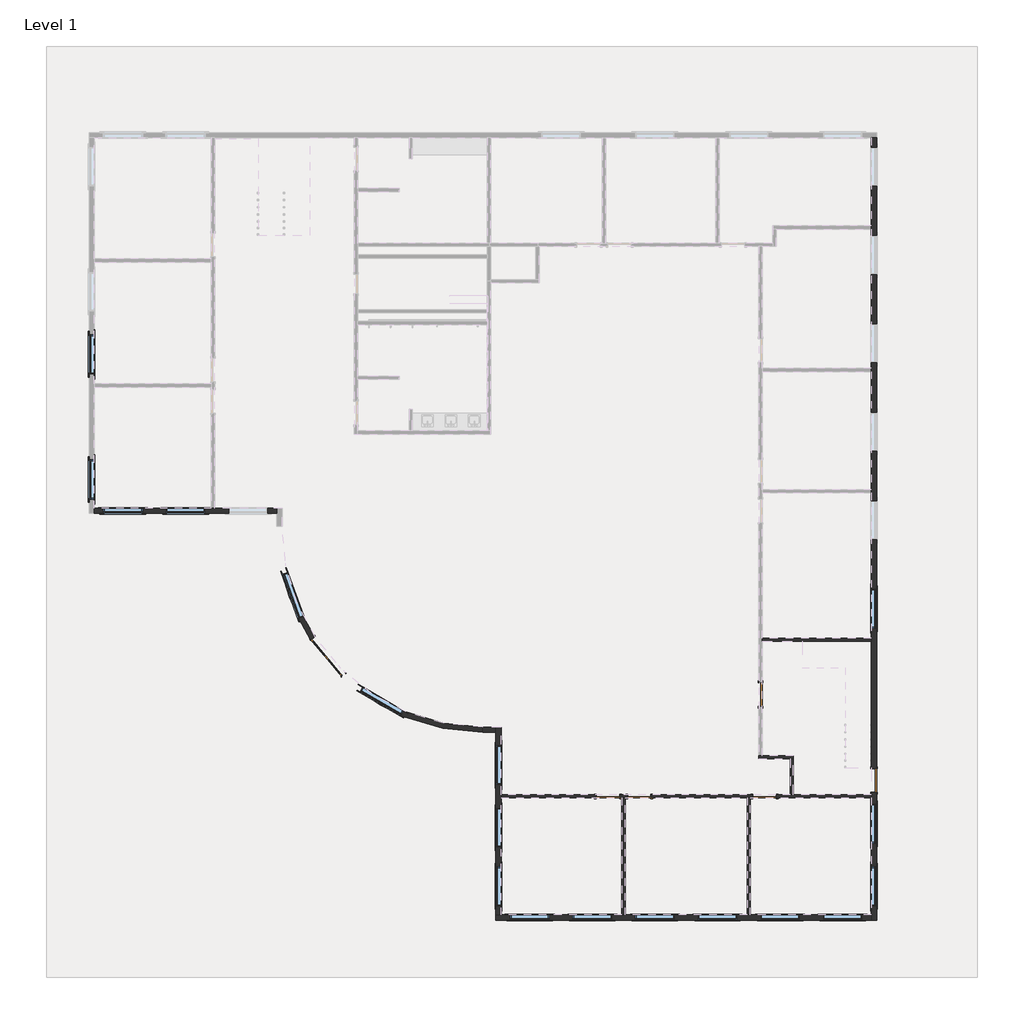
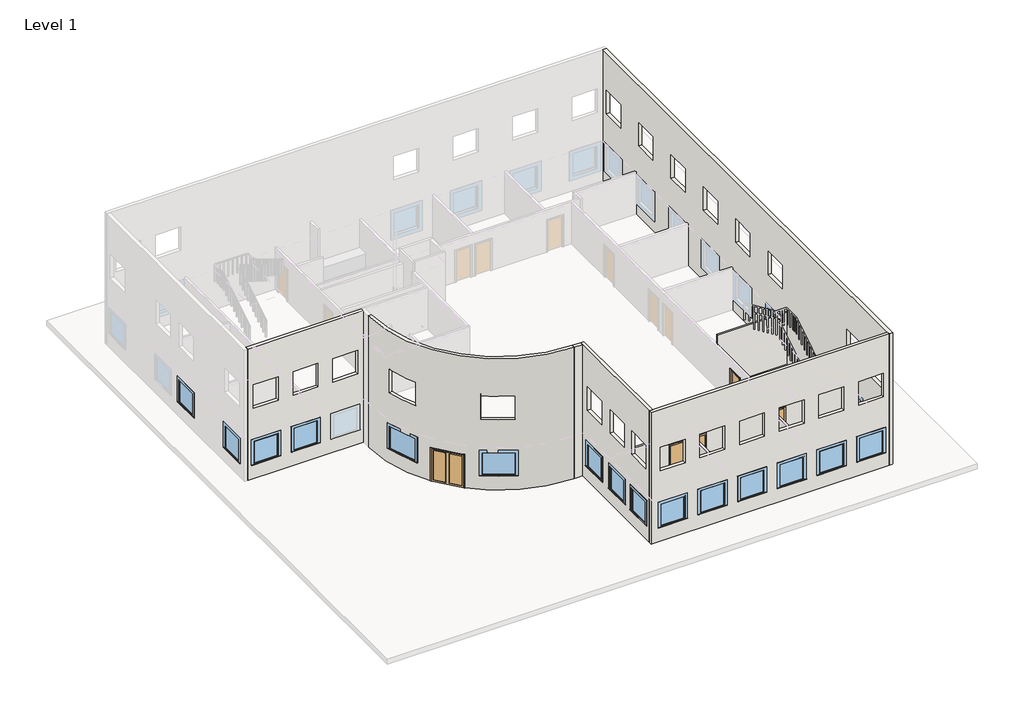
# One storey, part 1 of 4: 18 windows, 12 walls, 6 doors.
"""IFC4 building model written with IfcOpenShell, lengths in millimetres."""

from ifc_helpers import new_model, si_unit, frame, origin, origin_with_axes, place, context, project, spatial, polyline, circle_curve, outline, extrude, faceted_brep, transform, mapped, element, save
from ifc_brep_helpers import plane_surface, cylinder_surface, revolved_surface, advanced_brep
from components import door_e4a24bc2, door_a1797ceb, door_a3eb833a, door_54dd4da4, fixed_51c72f20, fixed_edddcce4, fixed_fbb7a90c

model = new_model("IFC4")

# Units and contexts
model_context = context("Model", 3, world=origin())
ifc_project = project(units=[si_unit("LENGTHUNIT", "METRE", prefix="MILLI")], contexts=[model_context])

# Site, building, storey
site = spatial("IfcSite", under=ifc_project)
building = spatial("IfcBuilding", under=site)
storey = spatial("IfcBuildingStorey", under=building, Name="Level 1", Elevation=0.0)

# Doors
placement = place(None, origin())
door_shape = door_e4a24bc2(model_context)
element("IfcDoor", 1, ObjectType="Dbl-Glass 1 : 72\" x 84\"", at=placement, inside=storey, context=model_context, shape_type="MappedRepresentation", body=[
    mapped(door_shape, transform((4204.1159776, -5206.0376483, 0.0), x_axis=(-0.6427876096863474, 0.7660444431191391, 0.0), y_axis=(-0.7660444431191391, -0.6427876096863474, 0.0), z_axis=(0.0, 0.0, 1.0))),
])
door_2_shape = door_a1797ceb(model_context)
element("IfcDoor", 2, ObjectType="Sgl Flush : 36\" x 84\"", at=placement, inside=storey, context=model_context, shape_type="MappedRepresentation", body=[
    mapped(door_2_shape, transform((21205.8157496, -10662.7900732, 0.0), x_axis=(-1.0, 0.0, 0.0), y_axis=(0.0, -1.0, 0.0), z_axis=(0.0, 0.0, 1.0))),
])
element("IfcDoor", 3, ObjectType="Sgl Flush : 36\" x 84\"", at=placement, inside=storey, context=model_context, shape_type="MappedRepresentation", body=[
    mapped(door_2_shape, transform((16329.0157496, -10662.7900732, 0.0), x_axis=(-1.0, 0.0, 0.0), y_axis=(0.0, -1.0, 0.0), z_axis=(0.0, 0.0, 1.0))),
])
element("IfcDoor", 4, ObjectType="Sgl Flush : 36\" x 84\"", at=placement, inside=storey, context=model_context, shape_type="MappedRepresentation", body=[
    mapped(door_2_shape, transform((21053.4157496, -6700.3900732, 0.0), x_axis=(0.0, -1.0, 0.0), y_axis=(1.0, 0.0, 0.0), z_axis=(0.0, 0.0, 1.0))),
])
door_3_shape = door_a3eb833a(model_context)
element("IfcDoor", 5, ObjectType="Sgl Flush : 36\" x 84\"", at=placement, inside=storey, context=model_context, shape_type="MappedRepresentation", body=[
    mapped(door_3_shape, transform((15109.8157496, -10662.7900732, 0.0), x_axis=(1.0, 0.0, 0.0), y_axis=(0.0, 1.0, 0.0), z_axis=(0.0, 0.0, 1.0))),
])
door_4_shape = door_54dd4da4(model_context)
element("IfcDoor", 6, ObjectType="Sgl Flush : 36\" x 84\"", at=placement, inside=storey, context=model_context, shape_type="MappedRepresentation", body=[
    mapped(door_4_shape, transform((25473.0157496, -10053.1900732, 0.0), x_axis=(0.0, -1.0, 0.0), y_axis=(1.0, 0.0, 0.0), z_axis=(0.0, 0.0, 1.0))),
])

# Walls
element("IfcWall", 7, ObjectType="Generic - 8\"", at=placement, inside=storey, context=model_context, shape_type="Brep", body=[
    faceted_brep([(25371.4157496, -10510.3900732, 2133.6), (25371.4157496, -10510.3900732, 0.0), (25371.4157496, -15285.5900732, 0.0), (25371.4157496, -15488.7900732, 0.0), (25371.4157496, -15488.7900732, 8534.4), (25371.4157496, -15285.5900732, 8534.4), (25371.4157496, 14991.2099268, 8534.4), (25371.4157496, 14991.2099268, 0.0), (25371.4157496, -9595.9900732, 0.0), (25371.4157496, -9595.9900732, 2133.6), (25371.4157496, -14929.9900732, 2438.4), (25371.4157496, -14929.9900732, 914.4), (25371.4157496, -13405.9900732, 914.4), (25371.4157496, -13405.9900732, 2438.4), (25371.4157496, -12491.5900732, 2438.4), (25371.4157496, -12491.5900732, 914.4), (25371.4157496, -10967.5900732, 914.4), (25371.4157496, -10967.5900732, 2438.4), (25371.4157496, -4109.5900732, 2438.4), (25371.4157496, -4109.5900732, 914.4), (25371.4157496, -2585.5900732, 914.4), (25371.4157496, -2585.5900732, 2438.4), (25371.4157496, -665.5088232, 2438.4), (25371.4157496, -665.5088232, 914.4), (25371.4157496, 858.4911768, 914.4), (25371.4157496, 858.4911768, 2438.4), (25371.4157496, 4302.5724268, 2438.4), (25371.4157496, 2778.5724268, 2438.4), (25371.4157496, 2778.5724268, 914.4), (25371.4157496, 4302.5724268, 914.4), (25371.4157496, 6223.4474268, 2438.4), (25371.4157496, 6223.4474268, 914.4), (25371.4157496, 7747.4474268, 914.4), (25371.4157496, 7747.4474268, 2438.4), (25371.4157496, 9667.5286768, 2438.4), (25371.4157496, 9667.5286768, 914.4), (25371.4157496, 11191.5286768, 914.4), (25371.4157496, 11191.5286768, 2438.4), (25371.4157496, 13111.6099268, 2438.4), (25371.4157496, 13111.6099268, 914.4), (25371.4157496, 14635.6099268, 914.4), (25371.4157496, 14635.6099268, 2438.4), (25371.4157496, 13111.6099268, 6096.0), (25371.4157496, 13111.6099268, 4572.0), (25371.4157496, 14635.6099268, 4572.0), (25371.4157496, 14635.6099268, 6096.0), (25371.4157496, 9667.5286768, 6096.0), (25371.4157496, 9667.5286768, 4572.0), (25371.4157496, 11191.5286768, 4572.0), (25371.4157496, 11191.5286768, 6096.0), (25371.4157496, 6223.4474268, 6096.0), (25371.4157496, 6223.4474268, 4572.0), (25371.4157496, 7747.4474268, 4572.0), (25371.4157496, 7747.4474268, 6096.0), (25371.4157496, 2778.5724268, 6096.0), (25371.4157496, 2778.5724268, 4572.0), (25371.4157496, 4302.5724268, 4572.0), (25371.4157496, 4302.5724268, 6096.0), (25371.4157496, -665.5088232, 6096.0), (25371.4157496, -665.5088232, 4572.0), (25371.4157496, 858.4911768, 4572.0), (25371.4157496, 858.4911768, 6096.0), (25371.4157496, -4109.5900732, 6096.0), (25371.4157496, -4109.5900732, 4572.0), (25371.4157496, -2585.5900732, 4572.0), (25371.4157496, -2585.5900732, 6096.0), (25371.4157496, -12491.5900732, 6096.0), (25371.4157496, -12491.5900732, 4572.0), (25371.4157496, -10967.5900732, 4572.0), (25371.4157496, -10967.5900732, 6096.0), (25371.4157496, -14929.9900732, 6096.0), (25371.4157496, -14929.9900732, 4572.0), (25371.4157496, -13405.9900732, 4572.0), (25371.4157496, -13405.9900732, 6096.0), (25574.6157496, -15488.7900732, 0.0), (25574.6157496, -10510.3900732, 0.0), (25574.6157496, -10510.3900732, 2133.6), (25574.6157496, -9595.9900732, 2133.6), (25574.6157496, -9595.9900732, 0.0), (25574.6157496, 14991.2099268, 0.0), (25574.6157496, 14991.2099268, 8534.4), (25574.6157496, -15488.7900732, 8534.4), (25574.6157496, -14929.9900732, 2438.4), (25574.6157496, -13405.9900732, 2438.4), (25574.6157496, -13405.9900732, 914.4), (25574.6157496, -14929.9900732, 914.4), (25574.6157496, -12491.5900732, 2438.4), (25574.6157496, -10967.5900732, 2438.4), (25574.6157496, -10967.5900732, 914.4), (25574.6157496, -12491.5900732, 914.4), (25574.6157496, -4109.5900732, 2438.4), (25574.6157496, -2585.5900732, 2438.4), (25574.6157496, -2585.5900732, 914.4), (25574.6157496, -4109.5900732, 914.4), (25574.6157496, -665.5088232, 2438.4), (25574.6157496, 858.4911768, 2438.4), (25574.6157496, 858.4911768, 914.4), (25574.6157496, -665.5088232, 914.4), (25574.6157496, 4302.5724268, 2438.4), (25574.6157496, 4302.5724268, 914.4), (25574.6157496, 2778.5724268, 914.4), (25574.6157496, 2778.5724268, 2438.4), (25574.6157496, 6223.4474268, 2438.4), (25574.6157496, 7747.4474268, 2438.4), (25574.6157496, 7747.4474268, 914.4), (25574.6157496, 6223.4474268, 914.4), (25574.6157496, 9667.5286768, 2438.4), (25574.6157496, 11191.5286768, 2438.4), (25574.6157496, 11191.5286768, 914.4), (25574.6157496, 9667.5286768, 914.4), (25574.6157496, 13111.6099268, 2438.4), (25574.6157496, 14635.6099268, 2438.4), (25574.6157496, 14635.6099268, 914.4), (25574.6157496, 13111.6099268, 914.4), (25574.6157496, 13111.6099268, 6096.0), (25574.6157496, 14635.6099268, 6096.0), (25574.6157496, 14635.6099268, 4572.0), (25574.6157496, 13111.6099268, 4572.0), (25574.6157496, 9667.5286768, 6096.0), (25574.6157496, 11191.5286768, 6096.0), (25574.6157496, 11191.5286768, 4572.0), (25574.6157496, 9667.5286768, 4572.0), (25574.6157496, 6223.4474268, 6096.0), (25574.6157496, 7747.4474268, 6096.0), (25574.6157496, 7747.4474268, 4572.0), (25574.6157496, 6223.4474268, 4572.0), (25574.6157496, 2778.5724268, 6096.0), (25574.6157496, 4302.5724268, 6096.0), (25574.6157496, 4302.5724268, 4572.0), (25574.6157496, 2778.5724268, 4572.0), (25574.6157496, -665.5088232, 6096.0), (25574.6157496, 858.4911768, 6096.0), (25574.6157496, 858.4911768, 4572.0), (25574.6157496, -665.5088232, 4572.0), (25574.6157496, -4109.5900732, 6096.0), (25574.6157496, -2585.5900732, 6096.0), (25574.6157496, -2585.5900732, 4572.0), (25574.6157496, -4109.5900732, 4572.0), (25574.6157496, -12491.5900732, 6096.0), (25574.6157496, -10967.5900732, 6096.0), (25574.6157496, -10967.5900732, 4572.0), (25574.6157496, -12491.5900732, 4572.0), (25574.6157496, -14929.9900732, 6096.0), (25574.6157496, -13405.9900732, 6096.0), (25574.6157496, -13405.9900732, 4572.0), (25574.6157496, -14929.9900732, 4572.0)], [[[0, 1, 2, 3, 4, 5, 6, 7, 8, 9], [10, 11, 12, 13], [14, 15, 16, 17], [18, 19, 20, 21], [22, 23, 24, 25], [26, 27, 28, 29], [30, 31, 32, 33], [34, 35, 36, 37], [38, 39, 40, 41], [42, 43, 44, 45], [46, 47, 48, 49], [50, 51, 52, 53], [54, 55, 56, 57], [58, 59, 60, 61], [62, 63, 64, 65], [66, 67, 68, 69], [70, 71, 72, 73]], [[74, 75, 76, 77, 78, 79, 80, 81], [82, 83, 84, 85], [86, 87, 88, 89], [90, 91, 92, 93], [94, 95, 96, 97], [98, 99, 100, 101], [102, 103, 104, 105], [106, 107, 108, 109], [110, 111, 112, 113], [114, 115, 116, 117], [118, 119, 120, 121], [122, 123, 124, 125], [126, 127, 128, 129], [130, 131, 132, 133], [134, 135, 136, 137], [138, 139, 140, 141], [142, 143, 144, 145]], [[3, 2, 1, 75, 74]], [[8, 7, 79, 78]], [[6, 5, 4, 81, 80]], [[4, 3, 74, 81]], [[7, 6, 80, 79]], [[11, 10, 82, 85]], [[12, 11, 85, 84]], [[13, 12, 84, 83]], [[10, 13, 83, 82]], [[15, 14, 86, 89]], [[16, 15, 89, 88]], [[17, 16, 88, 87]], [[14, 17, 87, 86]], [[19, 18, 90, 93]], [[20, 19, 93, 92]], [[21, 20, 92, 91]], [[18, 21, 91, 90]], [[23, 22, 94, 97]], [[24, 23, 97, 96]], [[25, 24, 96, 95]], [[22, 25, 95, 94]], [[99, 98, 26, 29]], [[100, 99, 29, 28]], [[101, 100, 28, 27]], [[98, 101, 27, 26]], [[31, 30, 102, 105]], [[32, 31, 105, 104]], [[33, 32, 104, 103]], [[30, 33, 103, 102]], [[35, 34, 106, 109]], [[36, 35, 109, 108]], [[37, 36, 108, 107]], [[34, 37, 107, 106]], [[39, 38, 110, 113]], [[40, 39, 113, 112]], [[41, 40, 112, 111]], [[38, 41, 111, 110]], [[76, 75, 1, 0]], [[77, 76, 0, 9]], [[78, 77, 9, 8]], [[43, 42, 114, 117]], [[44, 43, 117, 116]], [[45, 44, 116, 115]], [[42, 45, 115, 114]], [[47, 46, 118, 121]], [[48, 47, 121, 120]], [[49, 48, 120, 119]], [[46, 49, 119, 118]], [[51, 50, 122, 125]], [[52, 51, 125, 124]], [[53, 52, 124, 123]], [[50, 53, 123, 122]], [[55, 54, 126, 129]], [[56, 55, 129, 128]], [[57, 56, 128, 127]], [[54, 57, 127, 126]], [[59, 58, 130, 133]], [[60, 59, 133, 132]], [[61, 60, 132, 131]], [[58, 61, 131, 130]], [[63, 62, 134, 137]], [[64, 63, 137, 136]], [[65, 64, 136, 135]], [[62, 65, 135, 134]], [[67, 66, 138, 141]], [[68, 67, 141, 140]], [[69, 68, 140, 139]], [[66, 69, 139, 138]], [[71, 70, 142, 145]], [[72, 71, 145, 144]], [[73, 72, 144, 143]], [[70, 73, 143, 142]]]),
])
element("IfcWall", 8, ObjectType="Generic - 8\"", at=placement, inside=storey, context=model_context, shape_type="SweptSolid", body=[
    extrude(outline(polyline([(0.0, 25371.4157496), (8534.4, 25371.4157496), (8534.4, 10741.0157496), (0.0, 10741.0157496), (0.0, 25371.4157496)]), holes=[polyline([(2438.4, 12823.8157496), (914.4, 12823.8157496), (914.4, 11299.8157496), (2438.4, 11299.8157496), (2438.4, 12823.8157496)]), polyline([(2438.4, 15262.2157496), (914.4, 15262.2157496), (914.4, 13738.2157496), (2438.4, 13738.2157496), (2438.4, 15262.2157496)]), polyline([(2438.4, 16176.6157496), (2438.4, 17700.6157496), (914.4, 17700.6157496), (914.4, 16176.6157496), (2438.4, 16176.6157496)]), polyline([(2438.4, 18615.0157496), (2438.4, 20139.0157496), (914.4, 20139.0157496), (914.4, 18615.0157496), (2438.4, 18615.0157496)]), polyline([(2438.4, 21053.4157496), (2438.4, 22577.4157496), (914.4, 22577.4157496), (914.4, 21053.4157496), (2438.4, 21053.4157496)]), polyline([(2438.4, 23491.8157496), (2438.4, 25015.8157496), (914.4, 25015.8157496), (914.4, 23491.8157496), (2438.4, 23491.8157496)]), polyline([(6096.0, 11299.8157496), (6096.0, 12823.8157496), (4572.0, 12823.8157496), (4572.0, 11299.8157496), (6096.0, 11299.8157496)]), polyline([(6096.0, 13738.2157496), (6096.0, 15262.2157496), (4572.0, 15262.2157496), (4572.0, 13738.2157496), (6096.0, 13738.2157496)]), polyline([(6096.0, 16176.6157496), (6096.0, 17700.6157496), (4572.0, 17700.6157496), (4572.0, 16176.6157496), (6096.0, 16176.6157496)]), polyline([(6096.0, 18615.0157496), (6096.0, 20139.0157496), (4572.0, 20139.0157496), (4572.0, 18615.0157496), (6096.0, 18615.0157496)]), polyline([(6096.0, 21053.4157496), (6096.0, 22577.4157496), (4572.0, 22577.4157496), (4572.0, 21053.4157496), (6096.0, 21053.4157496)]), polyline([(6096.0, 23491.8157496), (6096.0, 25015.8157496), (4572.0, 25015.8157496), (4572.0, 23491.8157496), (6096.0, 23491.8157496)])]), frame((0.0, -15488.7900732, 0.0), z_axis=(0.0, 1.0, 0.0), x_axis=(0.0, 0.0, 1.0)), (0.0, 0.0, 1.0), 203.2),
])
element("IfcWall", 9, ObjectType="Generic - 8\"", at=placement, inside=storey, context=model_context, shape_type="Brep", body=[
    faceted_brep([(10944.2157496, -15285.5900732, 0.0), (10944.2157496, -10726.2900732, 0.0), (10944.2157496, -10599.2900732, 0.0), (10944.2157496, -7970.3900732, 0.0), (10944.2157496, -7970.3900732, 8534.4), (10944.2157496, -15285.5900732, 8534.4), (10944.2157496, -11119.9900732, 6096.0), (10944.2157496, -11119.9900732, 4572.0), (10944.2157496, -12643.9900732, 4572.0), (10944.2157496, -12643.9900732, 6096.0), (10944.2157496, -10205.5900732, 6096.0), (10944.2157496, -8681.5900732, 6096.0), (10944.2157496, -8681.5900732, 4572.0), (10944.2157496, -10205.5900732, 4572.0), (10944.2157496, -13405.9900732, 6096.0), (10944.2157496, -13405.9900732, 4572.0), (10944.2157496, -14929.9900732, 4572.0), (10944.2157496, -14929.9900732, 6096.0), (10944.2157496, -8681.5900732, 2438.4), (10944.2157496, -8681.5900732, 914.4), (10944.2157496, -10205.5900732, 914.4), (10944.2157496, -10205.5900732, 2438.4), (10944.2157496, -11119.9900732, 2438.4), (10944.2157496, -11119.9900732, 914.4), (10944.2157496, -12643.9900732, 914.4), (10944.2157496, -12643.9900732, 2438.4), (10944.2157496, -13405.9900732, 2438.4), (10944.2157496, -13405.9900732, 914.4), (10944.2157496, -14929.9900732, 914.4), (10944.2157496, -14929.9900732, 2438.4), (10741.0157496, -15285.5900732, 0.0), (10741.0157496, -15285.5900732, 8534.4), (10741.0157496, -7970.3900732, 8534.4), (10741.0157496, -7970.3900732, 0.0), (10741.0157496, -11119.9900732, 6096.0), (10741.0157496, -12643.9900732, 6096.0), (10741.0157496, -12643.9900732, 4572.0), (10741.0157496, -11119.9900732, 4572.0), (10741.0157496, -10205.5900732, 6096.0), (10741.0157496, -10205.5900732, 4572.0), (10741.0157496, -8681.5900732, 4572.0), (10741.0157496, -8681.5900732, 6096.0), (10741.0157496, -13405.9900732, 6096.0), (10741.0157496, -14929.9900732, 6096.0), (10741.0157496, -14929.9900732, 4572.0), (10741.0157496, -13405.9900732, 4572.0), (10741.0157496, -8681.5900732, 2438.4), (10741.0157496, -10205.5900732, 2438.4), (10741.0157496, -10205.5900732, 914.4), (10741.0157496, -8681.5900732, 914.4), (10741.0157496, -11119.9900732, 2438.4), (10741.0157496, -12643.9900732, 2438.4), (10741.0157496, -12643.9900732, 914.4), (10741.0157496, -11119.9900732, 914.4), (10741.0157496, -13405.9900732, 2438.4), (10741.0157496, -14929.9900732, 2438.4), (10741.0157496, -14929.9900732, 914.4), (10741.0157496, -13405.9900732, 914.4)], [[[0, 1, 2, 3, 4, 5], [6, 7, 8, 9], [10, 11, 12, 13], [14, 15, 16, 17], [18, 19, 20, 21], [22, 23, 24, 25], [26, 27, 28, 29]], [[30, 31, 32, 33], [34, 35, 36, 37], [38, 39, 40, 41], [42, 43, 44, 45], [46, 47, 48, 49], [50, 51, 52, 53], [54, 55, 56, 57]], [[3, 2, 1, 0, 30, 33]], [[5, 4, 32, 31]], [[4, 3, 33, 32]], [[0, 5, 31, 30]], [[7, 6, 34, 37]], [[8, 7, 37, 36]], [[9, 8, 36, 35]], [[6, 9, 35, 34]], [[39, 38, 10, 13]], [[40, 39, 13, 12]], [[41, 40, 12, 11]], [[38, 41, 11, 10]], [[15, 14, 42, 45]], [[16, 15, 45, 44]], [[17, 16, 44, 43]], [[14, 17, 43, 42]], [[19, 18, 46, 49]], [[20, 19, 49, 48]], [[21, 20, 48, 47]], [[18, 21, 47, 46]], [[23, 22, 50, 53]], [[24, 23, 53, 52]], [[25, 24, 52, 51]], [[22, 25, 51, 50]], [[27, 26, 54, 57]], [[28, 27, 57, 56]], [[29, 28, 56, 55]], [[26, 29, 55, 54]]]),
])
element("IfcWall", 10, ObjectType="Generic - 8\"", at=placement, inside=storey, context=model_context, shape_type="SweptSolid", body=[
    extrude(outline(polyline([(10741.0157496, -8173.5900732), (10233.0157496, -8173.5900732), (10233.0157496, -7970.3900732), (10741.0157496, -7970.3900732), (10741.0157496, -8173.5900732)])), origin_with_axes(), (0.0, 0.0, 1.0), 8534.4),
])
element("IfcWall", 11, ObjectType="Generic - 8\"", at=placement, inside=storey, context=model_context, shape_type="SweptSolid", body=[
    extrude(outline(polyline([(0.0, 2206.6157496), (8534.4, 2206.6157496), (8534.4, -4905.3842504), (0.0, -4905.3842504), (0.0, 2206.6157496)]), holes=[polyline([(2438.4, -3025.7842504), (914.4, -3025.7842504), (914.4, -4549.7842504), (2438.4, -4549.7842504), (2438.4, -3025.7842504)]), polyline([(2438.4, -2111.3842504), (2438.4, -587.3842504), (914.4, -587.3842504), (914.4, -2111.3842504), (2438.4, -2111.3842504)]), polyline([(2438.4, 1851.0157496), (914.4, 1851.0157496), (914.4, 327.0157496), (2438.4, 327.0157496), (2438.4, 1851.0157496)]), polyline([(6096.0, -4549.7842504), (6096.0, -3025.7842504), (4572.0, -3025.7842504), (4572.0, -4549.7842504), (6096.0, -4549.7842504)]), polyline([(6096.0, -2111.3842504), (6096.0, -587.3842504), (4572.0, -587.3842504), (4572.0, -2111.3842504), (6096.0, -2111.3842504)]), polyline([(6096.0, 327.0157496), (6096.0, 1851.0157496), (4572.0, 1851.0157496), (4572.0, 327.0157496), (6096.0, 327.0157496)])]), frame((0.0, 360.8099268, 0.0), z_axis=(0.0, 1.0, 0.0), x_axis=(0.0, 0.0, 1.0)), (0.0, 0.0, 1.0), 203.2),
])
element("IfcWall", 12, ObjectType="Generic - 8\"", at=placement, inside=storey, context=model_context, shape_type="AdvancedBrep", body=[
    advanced_brep(
    [(10233.0157496, -7970.3900732, 8534.4), (2409.8157496, -147.1900732, 8534.4), (2206.6157496, -147.1900732, 8534.4), (10233.0157496, -8173.5900732, 8534.4), (2409.8157496, -147.1900732, 0.0), (3693.40927, -4440.907033, 0.0), (3536.7022004, -4572.3998773, 0.0), (2206.6157496, -147.1900732, 0.0), (4868.9392505, -5841.8491106, 0.0), (10233.0157496, -7970.3900732, 0.0), (10233.0157496, -8173.5900732, 0.0), (4712.232181, -5973.3419549, 0.0), (3693.40927, -4440.907033, 2133.6), (4868.9392505, -5841.8491106, 2133.6), (5556.3334878, -6418.6413616, 2438.4), (5556.3334878, -6418.6413616, 914.4), (7140.1207463, -7333.0413616, 914.4), (7140.1207463, -7333.0413616, 2438.4), (2619.2581078, -1945.2870706, 2438.4), (2619.2581078, -1945.2870706, 914.4), (3244.744546, -3663.7969355, 914.4), (3244.744546, -3663.7969355, 2438.4), (5527.7340205, -6397.2126403, 6096.0), (5527.7340205, -6397.2126403, 4572.0), (7107.3277355, -7318.8379088, 4572.0), (7107.3277355, -7318.8379088, 6096.0), (2621.6730692, -1955.4823176, 6096.0), (2621.6730692, -1955.4823176, 4572.0), (3249.4604911, -3673.1529475, 4572.0), (3249.4604911, -3673.1529475, 6096.0), (3536.7022004, -4572.3998773, 2133.6), (4712.232181, -5973.3419549, 2133.6), (5454.0502124, -6595.8011914, 2438.4), (7037.8374708, -7510.2011914, 2438.4), (7037.8374708, -7510.2011914, 914.4), (5454.0502124, -6595.8011914, 914.4), (2427.0284295, -2015.2529517, 2438.4), (3052.5148676, -3733.7628166, 2438.4), (3052.5148676, -3733.7628166, 914.4), (2427.0284295, -2015.2529517, 914.4), (5424.6425384, -6573.9033873, 6096.0), (7004.2362534, -7495.5286558, 6096.0), (7004.2362534, -7495.5286558, 4572.0), (5424.6425384, -6573.9033873, 4572.0), (2429.5372663, -2025.7055829, 6096.0), (3057.3246882, -3743.3762128, 6096.0), (3057.3246882, -3743.3762128, 4572.0), (2429.5372663, -2025.7055829, 4572.0)],
    [
        (0, 1, circle_curve(frame((10233.0157496, -147.1900732, 8534.4), z_axis=(0.0, 0.0, -1.0), x_axis=(1.0, 0.0, 0.0)), 7823.2)),
        (1, 2),
        (2, 3, circle_curve(frame((10233.0157496, -147.1900732, 8534.4), z_axis=(0.0, 0.0, 1.0), x_axis=(1.0, 0.0, 0.0)), 8026.4)),
        (3, 0),
        (4, 5, circle_curve(frame((10233.0157496, -147.1900732, 0.0), z_axis=(0.0, 0.0, 1.0), x_axis=(1.0, 0.0, 0.0)), 7823.2)),
        (5, 6),
        (6, 7, circle_curve(frame((10233.0157496, -147.1900732, 0.0), z_axis=(0.0, 0.0, -1.0), x_axis=(1.0, 0.0, 0.0)), 8026.4)),
        (7, 4),
        (8, 9, circle_curve(frame((10233.0157496, -147.1900732, 0.0), z_axis=(0.0, 0.0, 1.0), x_axis=(1.0, 0.0, 0.0)), 7823.2)),
        (9, 10),
        (10, 11, circle_curve(frame((10233.0157496, -147.1900732, 0.0), z_axis=(0.0, 0.0, -1.0), x_axis=(1.0, 0.0, 0.0)), 8026.4)),
        (11, 8),
        (12, 5),
        (4, 1),
        (0, 9),
        (8, 13),
        (13, 12, circle_curve(frame((10233.0157496, -147.1900732, 2133.6), z_axis=(0.0, 0.0, -1.0), x_axis=(1.0, 0.0, 0.0)), 7823.2)),
        (14, 15),
        (15, 16, circle_curve(frame((10233.0157496, -147.1900732, 914.4), z_axis=(0.0, 0.0, 1.0), x_axis=(1.0, 0.0, 0.0)), 7823.2)),
        (16, 17),
        (17, 14, circle_curve(frame((10233.0157496, -147.1900732, 2438.4), z_axis=(0.0, 0.0, -1.0), x_axis=(1.0, 0.0, 0.0)), 7823.2)),
        (18, 19),
        (19, 20, circle_curve(frame((10233.0157496, -147.1900732, 914.4), z_axis=(0.0, 0.0, 1.0), x_axis=(1.0, 0.0, 0.0)), 7823.2)),
        (20, 21),
        (21, 18, circle_curve(frame((10233.0157496, -147.1900732, 2438.4), z_axis=(0.0, 0.0, -1.0), x_axis=(1.0, 0.0, 0.0)), 7823.2)),
        (22, 23),
        (23, 24, circle_curve(frame((10233.0157496, -147.1900732, 4572.0), z_axis=(0.0, 0.0, 1.0), x_axis=(1.0, 0.0, 0.0)), 7823.2)),
        (24, 25),
        (25, 22, circle_curve(frame((10233.0157496, -147.1900732, 6096.0), z_axis=(0.0, 0.0, -1.0), x_axis=(1.0, 0.0, 0.0)), 7823.2)),
        (26, 27),
        (27, 28, circle_curve(frame((10233.0157496, -147.1900732, 4572.0), z_axis=(0.0, 0.0, 1.0), x_axis=(1.0, 0.0, 0.0)), 7823.2)),
        (28, 29),
        (29, 26, circle_curve(frame((10233.0157496, -147.1900732, 6096.0), z_axis=(0.0, 0.0, -1.0), x_axis=(1.0, 0.0, 0.0)), 7823.2)),
        (7, 2),
        (6, 30),
        (30, 31, circle_curve(frame((10233.0157496, -147.1900732, 2133.6), z_axis=(0.0, 0.0, 1.0), x_axis=(1.0, 0.0, 0.0)), 8026.4)),
        (31, 11),
        (10, 3),
        (32, 33, circle_curve(frame((10233.0157496, -147.1900732, 2438.4), z_axis=(0.0, 0.0, 1.0), x_axis=(1.0, 0.0, 0.0)), 8026.4)),
        (33, 34),
        (34, 35, circle_curve(frame((10233.0157496, -147.1900732, 914.4), z_axis=(0.0, 0.0, -1.0), x_axis=(1.0, 0.0, 0.0)), 8026.4)),
        (35, 32),
        (36, 37, circle_curve(frame((10233.0157496, -147.1900732, 2438.4), z_axis=(0.0, 0.0, 1.0), x_axis=(1.0, 0.0, 0.0)), 8026.4)),
        (37, 38),
        (38, 39, circle_curve(frame((10233.0157496, -147.1900732, 914.4), z_axis=(0.0, 0.0, -1.0), x_axis=(1.0, 0.0, 0.0)), 8026.4)),
        (39, 36),
        (40, 41, circle_curve(frame((10233.0157496, -147.1900732, 6096.0), z_axis=(0.0, 0.0, 1.0), x_axis=(1.0, 0.0, 0.0)), 8026.4)),
        (41, 42),
        (42, 43, circle_curve(frame((10233.0157496, -147.1900732, 4572.0), z_axis=(0.0, 0.0, -1.0), x_axis=(1.0, 0.0, 0.0)), 8026.4)),
        (43, 40),
        (44, 45, circle_curve(frame((10233.0157496, -147.1900732, 6096.0), z_axis=(0.0, 0.0, 1.0), x_axis=(1.0, 0.0, 0.0)), 8026.4)),
        (45, 46),
        (46, 47, circle_curve(frame((10233.0157496, -147.1900732, 4572.0), z_axis=(0.0, 0.0, -1.0), x_axis=(1.0, 0.0, 0.0)), 8026.4)),
        (47, 44),
        (12, 30),
        (13, 31),
        (14, 32),
        (35, 15),
        (34, 16),
        (33, 17),
        (18, 36),
        (39, 19),
        (38, 20),
        (37, 21),
        (22, 40),
        (43, 23),
        (42, 24),
        (41, 25),
        (26, 44),
        (47, 27),
        (46, 28),
        (45, 29),
    ],
    [
        plane_surface(frame((18056.2157496, -147.1900732, 8534.4), z_axis=(0.0, 0.0, 1.0), x_axis=(0.0, -1.0, 0.0))),
        plane_surface(frame((18056.2157496, -147.1900732, 0.0), z_axis=(0.0, 0.0, -1.0), x_axis=(0.0, 1.0, 0.0))),
        revolved_surface(polyline([(18056.2157496, -147.1900732, 0.0), (18056.2157496, -147.1900732, 8534.4)]), (10233.0157496, -147.1900732, 0.0), (0.0, 0.0, -1.0)),
        plane_surface(frame((2409.8157496, -147.1900732, 8534.4), z_axis=(0.0, 1.0, 0.0), x_axis=(0.0, 0.0, -1.0))),
        cylinder_surface(frame((10233.0157496, -147.1900732, 0.0), z_axis=(0.0, 0.0, 1.0), x_axis=(1.0, 0.0, 0.0)), 8026.4),
        plane_surface(frame((10233.0157496, -8173.5900732, 8534.4), z_axis=(1.0, 0.0, 0.0), x_axis=(0.0, 0.0, -1.0))),
        plane_surface(frame((3536.7022004, -4572.3998773, 0.0), z_axis=(0.642787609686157, -0.7660444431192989, 0.0), x_axis=(0.7660444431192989, 0.642787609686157, 0.0))),
        plane_surface(frame((3536.7022004, -4572.3998773, 2133.6), z_axis=(0.0, 0.0, -1.0), x_axis=(0.7660444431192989, 0.642787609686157, 0.0))),
        plane_surface(frame((4712.232181, -5973.3419549, 2133.6), z_axis=(-0.6427876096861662, 0.7660444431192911, 0.0), x_axis=(0.7660444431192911, 0.6427876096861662, 0.0))),
        plane_surface(frame((5556.3334878, -6418.6413616, 2438.4), z_axis=(0.8660254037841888, -0.500000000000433, 0.0), x_axis=(-0.500000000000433, -0.8660254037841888, 0.0))),
        plane_surface(frame((5556.3334878, -6418.6413616, 914.4), z_axis=(0.0, 0.0, 1.0000000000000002), x_axis=(-0.500000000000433, -0.8660254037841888, 0.0))),
        plane_surface(frame((7140.1207463, -7333.0413616, 914.4), z_axis=(-0.866025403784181, 0.5000000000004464, 0.0), x_axis=(-0.5000000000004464, -0.866025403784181, 0.0))),
        plane_surface(frame((7140.1207463, -7333.0413616, 2438.4), z_axis=(0.0, 0.0, -1.0000000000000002), x_axis=(-0.5000000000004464, -0.866025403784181, 0.0))),
        plane_surface(frame((2619.2581078, -1945.2870706, 2438.4), z_axis=(0.3420201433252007, -0.9396926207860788, 0.0), x_axis=(-0.9396926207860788, -0.3420201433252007, 0.0))),
        plane_surface(frame((2619.2581078, -1945.2870706, 914.4), z_axis=(0.0, 0.0, 1.0), x_axis=(-0.9396926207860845, -0.34202014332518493, 0.0))),
        plane_surface(frame((3244.744546, -3663.7969355, 914.4), z_axis=(-0.34202014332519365, 0.9396926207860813, 0.0), x_axis=(-0.9396926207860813, -0.34202014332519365, 0.0))),
        plane_surface(frame((3244.744546, -3663.7969355, 2438.4), z_axis=(0.0, 0.0, -1.0), x_axis=(-0.9396926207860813, -0.34202014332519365, 0.0))),
        plane_surface(frame((5527.7340205, -6397.2126403, 6096.0), z_axis=(0.8637323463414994, -0.5039508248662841, 0.0), x_axis=(-0.5039508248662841, -0.8637323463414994, 0.0))),
        plane_surface(frame((5527.7340205, -6397.2126403, 4572.0), z_axis=(0.0, 0.0, 1.0), x_axis=(-0.5039508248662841, -0.8637323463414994, 0.0))),
        plane_surface(frame((7107.3277355, -7318.8379088, 4572.0), z_axis=(-0.8637323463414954, 0.5039508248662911, 0.0), x_axis=(-0.5039508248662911, -0.8637323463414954, 0.0))),
        plane_surface(frame((7107.3277355, -7318.8379088, 6096.0), z_axis=(0.0, 0.0, -1.0), x_axis=(-0.5039508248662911, -0.8637323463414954, 0.0))),
        plane_surface(frame((2621.6730692, -1955.4823176, 6096.0), z_axis=(0.3432783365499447, -0.9392337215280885, 0.0), x_axis=(-0.9392337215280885, -0.3432783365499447, 0.0))),
        plane_surface(frame((2621.6730692, -1955.4823176, 4572.0), z_axis=(0.0, 0.0, 1.0), x_axis=(-0.9392337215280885, -0.3432783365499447, 0.0))),
        plane_surface(frame((3249.4604911, -3673.1529475, 4572.0), z_axis=(-0.3432783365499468, 0.9392337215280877, 0.0), x_axis=(-0.9392337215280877, -0.3432783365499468, 0.0))),
        plane_surface(frame((3249.4604911, -3673.1529475, 6096.0), z_axis=(0.0, 0.0, -1.0), x_axis=(-0.9392337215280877, -0.3432783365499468, 0.0))),
    ],
    [
        (0, [[1, 2, 3, 4]]),
        (1, [[5, 6, 7, 8]]),
        (1, [[9, 10, 11, 12]]),
        (2, [[13, -5, 14, -1, 15, -9, 16, 17], [18, 19, 20, 21], [22, 23, 24, 25], [26, 27, 28, 29], [30, 31, 32, 33]]),
        (3, [[-2, -14, -8, 34]]),
        (4, [[-7, 35, 36, 37, -11, 38, -3, -34], [39, 40, 41, 42], [43, 44, 45, 46], [47, 48, 49, 50], [51, 52, 53, 54]]),
        (5, [[-4, -38, -10, -15]]),
        (6, [[-35, -6, -13, 55]]),
        (7, [[-36, -55, -17, 56]]),
        (8, [[-37, -56, -16, -12]]),
        (9, [[-18, 57, -42, 58]]),
        (10, [[-19, -58, -41, 59]]),
        (11, [[-20, -59, -40, 60]]),
        (12, [[-21, -60, -39, -57]]),
        (13, [[-22, 61, -46, 62]]),
        (14, [[-23, -62, -45, 63]]),
        (15, [[-24, -63, -44, 64]]),
        (16, [[-25, -64, -43, -61]]),
        (17, [[-26, 65, -50, 66]]),
        (18, [[-27, -66, -49, 67]]),
        (19, [[-28, -67, -48, 68]]),
        (20, [[-29, -68, -47, -65]]),
        (21, [[-30, 69, -54, 70]]),
        (22, [[-31, -70, -53, 71]]),
        (23, [[-32, -71, -52, 72]]),
        (24, [[-33, -72, -51, -69]]),
    ],
),
])
element("IfcWall", 13, ObjectType="Interior - 5\" Partition (2-hr)", at=placement, inside=storey, context=model_context, shape_type="SweptSolid", body=[
    extrude(outline(polyline([(25371.4157496, -4630.2900732), (21116.9157496, -4630.2900732), (21116.9157496, -4503.2900732), (25371.4157496, -4503.2900732), (25371.4157496, -4630.2900732)])), origin_with_axes(), (0.0, 0.0, 1.0), 3352.8),
])
element("IfcWall", 14, ObjectType="Interior - 5\" Partition (2-hr)", at=placement, inside=storey, context=model_context, shape_type="Brep", body=[
    faceted_brep([(15871.8157496, -10599.2900732, 0.0), (15567.0157496, -10599.2900732, 0.0), (15567.0157496, -10599.2900732, 2133.6), (14652.6157496, -10599.2900732, 2133.6), (14652.6157496, -10599.2900732, 0.0), (10944.2157496, -10599.2900732, 0.0), (10944.2157496, -10599.2900732, 2743.2), (25371.4157496, -10599.2900732, 2743.2), (25371.4157496, -10599.2900732, 0.0), (22336.1157496, -10599.2900732, 0.0), (22209.1157496, -10599.2900732, 0.0), (21663.0157496, -10599.2900732, 0.0), (21663.0157496, -10599.2900732, 2133.6), (20748.6157496, -10599.2900732, 2133.6), (20748.6157496, -10599.2900732, 0.0), (16786.2157496, -10599.2900732, 0.0), (16786.2157496, -10599.2900732, 2133.6), (15871.8157496, -10599.2900732, 2133.6), (15567.0157496, -10726.2900732, 2133.6), (15567.0157496, -10726.2900732, 0.0), (15655.9157496, -10726.2900732, 0.0), (15782.9157496, -10726.2900732, 0.0), (15871.8157496, -10726.2900732, 0.0), (15871.8157496, -10726.2900732, 2133.6), (16786.2157496, -10726.2900732, 2133.6), (16786.2157496, -10726.2900732, 0.0), (20532.7157496, -10726.2900732, 0.0), (20659.7157496, -10726.2900732, 0.0), (20748.6157496, -10726.2900732, 0.0), (20748.6157496, -10726.2900732, 2133.6), (21663.0157496, -10726.2900732, 2133.6), (21663.0157496, -10726.2900732, 0.0), (25371.4157496, -10726.2900732, 0.0), (25371.4157496, -10726.2900732, 2743.2), (20659.7157496, -10726.2900732, 2743.2), (20532.7157496, -10726.2900732, 2743.2), (15782.9157496, -10726.2900732, 2743.2), (15655.9157496, -10726.2900732, 2743.2), (10944.2157496, -10726.2900732, 2743.2), (10944.2157496, -10726.2900732, 0.0), (14652.6157496, -10726.2900732, 0.0), (14652.6157496, -10726.2900732, 2133.6)], [[[0, 1, 2, 3, 4, 5, 6, 7, 8, 9, 10, 11, 12, 13, 14, 15, 16, 17]], [[18, 19, 20, 21, 22, 23, 24, 25, 26, 27, 28, 29, 30, 31, 32, 33, 34, 35, 36, 37, 38, 39, 40, 41]], [[22, 21, 20, 19, 1, 0]], [[11, 10, 9, 8, 32, 31]], [[15, 14, 28, 27, 26, 25]], [[40, 39, 5, 4]], [[7, 6, 38, 37, 36, 35, 34, 33]], [[8, 7, 33, 32]], [[6, 5, 39, 38]], [[29, 28, 14, 13]], [[30, 29, 13, 12]], [[31, 30, 12, 11]], [[23, 22, 0, 17]], [[24, 23, 17, 16]], [[25, 24, 16, 15]], [[2, 1, 19, 18]], [[3, 2, 18, 41]], [[4, 3, 41, 40]]]),
])
element("IfcWall", 15, ObjectType="Interior - 5\" Partition (2-hr)", at=placement, inside=storey, context=model_context, shape_type="SweptSolid", body=[
    extrude(outline(polyline([(20532.7157496, -15285.5900732), (20532.7157496, -10726.2900732), (20659.7157496, -10726.2900732), (20659.7157496, -15285.5900732), (20532.7157496, -15285.5900732)])), origin_with_axes(), (0.0, 0.0, 1.0), 2743.2),
])
element("IfcWall", 16, ObjectType="Interior - 5\" Partition (2-hr)", at=placement, inside=storey, context=model_context, shape_type="SweptSolid", body=[
    extrude(outline(polyline([(15655.9157496, -15285.5900732), (15655.9157496, -10726.2900732), (15782.9157496, -10726.2900732), (15782.9157496, -15285.5900732), (15655.9157496, -15285.5900732)])), origin_with_axes(), (0.0, 0.0, 1.0), 2743.2),
])
element("IfcWall", 17, ObjectType="Interior - 5\" Partition (2-hr)", at=placement, inside=storey, context=model_context, shape_type="Brep", body=[
    faceted_brep([(20989.9157496, -9202.2900732, 0.0), (22209.1157496, -9202.2900732, 0.0), (22336.1157496, -9202.2900732, 0.0), (22336.1157496, -9202.2900732, 3352.8), (22209.1157496, -9202.2900732, 3352.8), (20989.9157496, -9202.2900732, 3352.8), (20989.9157496, -9075.2900732, 0.0), (20989.9157496, -9075.2900732, 2743.2), (20989.9157496, -9075.2900732, 3352.8), (22336.1157496, -9075.2900732, 3352.8), (22336.1157496, -9075.2900732, 0.0), (21116.9157496, -9075.2900732, 0.0)], [[[0, 1, 2, 3, 4, 5]], [[6, 7, 8, 9, 10, 11]], [[2, 1, 0, 6, 11, 10]], [[5, 4, 3, 9, 8]], [[3, 2, 10, 9]], [[0, 5, 8, 7, 6]]]),
])
element("IfcWall", 18, ObjectType="Interior - 5\" Partition (2-hr)", at=placement, inside=storey, context=model_context, shape_type="SweptSolid", body=[
    extrude(outline(polyline([(22209.1157496, -10599.2900732), (22209.1157496, -9202.2900732), (22336.1157496, -9202.2900732), (22336.1157496, -10599.2900732), (22209.1157496, -10599.2900732)])), origin_with_axes(), (0.0, 0.0, 1.0), 3352.8),
])

# Windows
fixed_shape = fixed_51c72f20(model_context)
element("IfcWindow", 19, ObjectType="Fixed : 60\"w x 60\"h", at=placement, inside=storey, context=model_context, shape_type="MappedRepresentation", body=[
    mapped(fixed_shape, transform((12099.9157496, -15387.1900732, 0.0), x_axis=(1.0, 0.0, 0.0), y_axis=(0.0, 1.0, 0.0), z_axis=(0.0, 0.0, 1.0))),
])
element("IfcWindow", 20, ObjectType="Fixed : 60\"w x 60\"h", at=placement, inside=storey, context=model_context, shape_type="MappedRepresentation", body=[
    mapped(fixed_shape, transform((14538.3157496, -15387.1900732, 0.0), x_axis=(1.0, 0.0, 0.0), y_axis=(0.0, 1.0, 0.0), z_axis=(0.0, 0.0, 1.0))),
])
element("IfcWindow", 21, ObjectType="Fixed : 60\"w x 60\"h", at=placement, inside=storey, context=model_context, shape_type="MappedRepresentation", body=[
    mapped(fixed_shape, transform((-3749.6842504, 462.4099268, 0.0), x_axis=(1.0, 0.0, 0.0), y_axis=(0.0, 1.0, 0.0), z_axis=(0.0, 0.0, 1.0))),
])
element("IfcWindow", 22, ObjectType="Fixed : 60\"w x 60\"h", at=placement, inside=storey, context=model_context, shape_type="MappedRepresentation", body=[
    mapped(fixed_shape, transform((-5006.9842504, 6520.3099268, 0.0), x_axis=(0.0, -1.0, 0.0), y_axis=(1.0, 0.0, 0.0), z_axis=(0.0, 0.0, 1.0))),
])
element("IfcWindow", 23, ObjectType="Fixed : 60\"w x 60\"h", at=placement, inside=storey, context=model_context, shape_type="MappedRepresentation", body=[
    mapped(fixed_shape, transform((-5006.9842504, 1643.5099268, 0.0), x_axis=(0.0, -1.0, 0.0), y_axis=(1.0, 0.0, 0.0), z_axis=(0.0, 0.0, 1.0))),
])
fixed_2_shape = fixed_edddcce4(model_context)
element("IfcWindow", 24, ObjectType="Fixed : 60\"w x 60\"h", at=placement, inside=storey, context=model_context, shape_type="MappedRepresentation", body=[
    mapped(fixed_2_shape, transform((25473.0157496, -14206.0900732, 0.0), x_axis=(0.0, -1.0, 0.0), y_axis=(1.0, 0.0, 0.0), z_axis=(0.0, 0.0, 1.0))),
])
element("IfcWindow", 25, ObjectType="Fixed : 60\"w x 60\"h", at=placement, inside=storey, context=model_context, shape_type="MappedRepresentation", body=[
    mapped(fixed_2_shape, transform((25473.0157496, -11767.6900732, 0.0), x_axis=(0.0, -1.0, 0.0), y_axis=(1.0, 0.0, 0.0), z_axis=(0.0, 0.0, 1.0))),
])
element("IfcWindow", 26, ObjectType="Fixed : 60\"w x 60\"h", at=placement, inside=storey, context=model_context, shape_type="MappedRepresentation", body=[
    mapped(fixed_2_shape, transform((25473.0157496, -3385.6900732, 0.0), x_axis=(0.0, -1.0, 0.0), y_axis=(1.0, 0.0, 0.0), z_axis=(0.0, 0.0, 1.0))),
])
element("IfcWindow", 27, ObjectType="Fixed : 60\"w x 60\"h", at=placement, inside=storey, context=model_context, shape_type="MappedRepresentation", body=[
    mapped(fixed_2_shape, transform((-1387.4842504, 462.4099268, 0.0), x_axis=(-1.0, 0.0, 0.0), y_axis=(0.0, -1.0, 0.0), z_axis=(0.0, 0.0, 1.0))),
])
element("IfcWindow", 28, ObjectType="Fixed : 60\"w x 60\"h", at=placement, inside=storey, context=model_context, shape_type="MappedRepresentation", body=[
    mapped(fixed_2_shape, transform((16900.5157496, -15387.1900732, 0.0), x_axis=(-1.0, 0.0, 0.0), y_axis=(0.0, -1.0, 0.0), z_axis=(0.0, 0.0, 1.0))),
])
element("IfcWindow", 29, ObjectType="Fixed : 60\"w x 60\"h", at=placement, inside=storey, context=model_context, shape_type="MappedRepresentation", body=[
    mapped(fixed_2_shape, transform((19338.9157496, -15387.1900732, 0.0), x_axis=(-1.0, 0.0, 0.0), y_axis=(0.0, -1.0, 0.0), z_axis=(0.0, 0.0, 1.0))),
])
element("IfcWindow", 30, ObjectType="Fixed : 60\"w x 60\"h", at=placement, inside=storey, context=model_context, shape_type="MappedRepresentation", body=[
    mapped(fixed_2_shape, transform((21777.3157496, -15387.1900732, 0.0), x_axis=(-1.0, 0.0, 0.0), y_axis=(0.0, -1.0, 0.0), z_axis=(0.0, 0.0, 1.0))),
])
element("IfcWindow", 31, ObjectType="Fixed : 60\"w x 60\"h", at=placement, inside=storey, context=model_context, shape_type="MappedRepresentation", body=[
    mapped(fixed_2_shape, transform((24215.7157496, -15387.1900732, 0.0), x_axis=(-1.0, 0.0, 0.0), y_axis=(0.0, -1.0, 0.0), z_axis=(0.0, 0.0, 1.0))),
])
element("IfcWindow", 32, ObjectType="Fixed : 60\"w x 60\"h", at=placement, inside=storey, context=model_context, shape_type="MappedRepresentation", body=[
    mapped(fixed_2_shape, transform((10842.6157496, -9405.4900732, 0.0), x_axis=(0.0, 1.0, 0.0), y_axis=(-1.0, 0.0, 0.0), z_axis=(0.0, 0.0, 1.0))),
])
element("IfcWindow", 33, ObjectType="Fixed : 60\"w x 60\"h", at=placement, inside=storey, context=model_context, shape_type="MappedRepresentation", body=[
    mapped(fixed_2_shape, transform((10842.6157496, -11843.8900732, 0.0), x_axis=(0.0, 1.0, 0.0), y_axis=(-1.0, 0.0, 0.0), z_axis=(0.0, 0.0, 1.0))),
])
element("IfcWindow", 34, ObjectType="Fixed : 60\"w x 60\"h", at=placement, inside=storey, context=model_context, shape_type="MappedRepresentation", body=[
    mapped(fixed_2_shape, transform((10842.6157496, -14129.8900732, 0.0), x_axis=(0.0, 1.0, 0.0), y_axis=(-1.0, 0.0, 0.0), z_axis=(0.0, 0.0, 1.0))),
])
fixed_3_shape = fixed_fbb7a90c(model_context)
element("IfcWindow", 35, ObjectType="Fixed : 72\"w x 60\"h", at=placement, inside=storey, context=model_context, shape_type="MappedRepresentation", body=[
    mapped(fixed_3_shape, transform((6263.7482737, -6945.9630104, 0.0), x_axis=(-0.8660254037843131, 0.5000000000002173, 0.0), y_axis=(-0.5000000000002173, -0.8660254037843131, 0.0), z_axis=(0.0, 0.0, 1.0))),
])
element("IfcWindow", 36, ObjectType="Fixed : 72\"w x 60\"h", at=placement, inside=storey, context=model_context, shape_type="MappedRepresentation", body=[
    mapped(fixed_3_shape, transform((2822.2134514, -2803.9563487, 0.0), x_axis=(-0.34202014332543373, 0.9396926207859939, 0.0), y_axis=(-0.9396926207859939, -0.34202014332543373, 0.0), z_axis=(0.0, 0.0, 1.0))),
])

save(model, "model.ifc")
